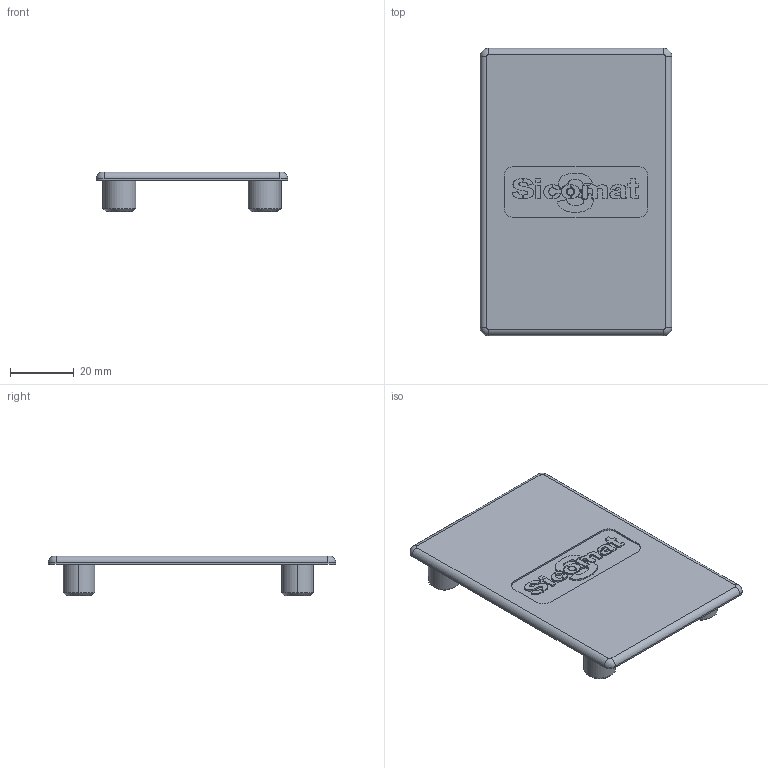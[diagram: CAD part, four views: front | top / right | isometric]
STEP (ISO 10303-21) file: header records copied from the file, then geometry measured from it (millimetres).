
FILE_DESCRIPTION (( 'STEP AP203' ), '1' );
FILE_NAME ('900.400.001.STEP', '2014-11-06T15:33:15', ( '' ), ( '' ), 'SwSTEP 2.0', 'SolidWorks 2012', '' );
FILE_SCHEMA (( 'CONFIG_CONTROL_DESIGN' ));
Length unit declared in the file: millimetre
Products named in the file (1): 900.400.001
Bounding box: 60 x 90 x 12.5 mm (x, y, z)
Volume: 14646.3 mm3; surface area: 13742.7 mm2
Topology: 20 solids, 20 shells, 231 faces, 522 edges, 340 vertices
Faces by surface type: bspline 100, plane 83, cylinder 28, torus 12, cone 8
Entity records: 7019 total; most frequent: CARTESIAN_POINT 2406, ORIENTED_EDGE 1044, DIRECTION 670, EDGE_CURVE 522, VERTEX_POINT 340, EDGE_LOOP 240, VECTOR 238, LINE 238
